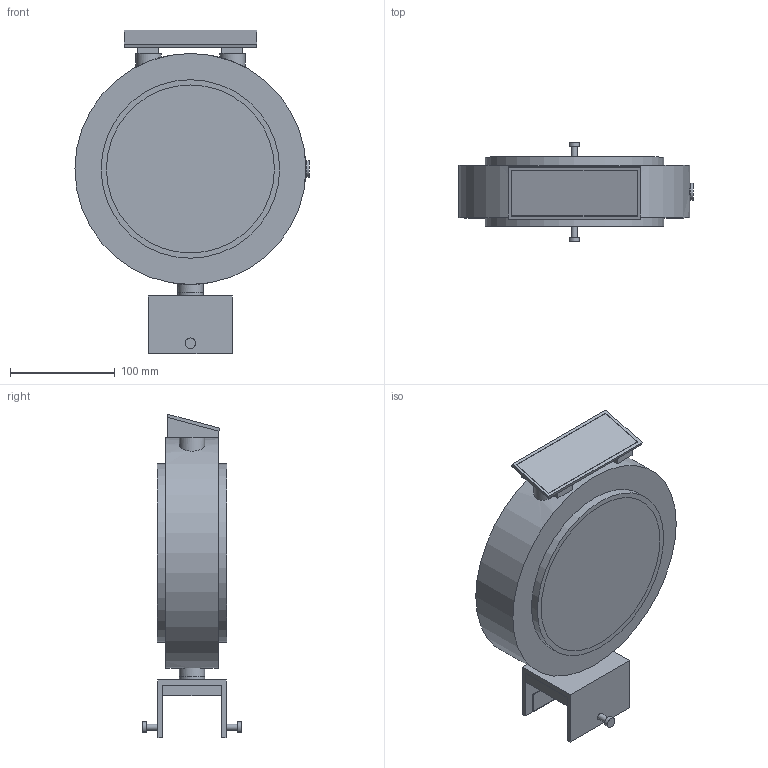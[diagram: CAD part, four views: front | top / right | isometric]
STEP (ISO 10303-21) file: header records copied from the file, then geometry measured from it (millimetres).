
FILE_DESCRIPTION(('FreeCAD Model'),'2;1');
FILE_NAME('Open CASCADE Shape Model','2026-10-04T03:57:48',('FreeCAD'),( 'FreeCAD'),'Open CASCADE STEP processor 7.8','FreeCAD','Unknown');
FILE_SCHEMA(('AUTOMOTIVE_DESIGN { 1 0 10303 214 1 1 1 1 }'));
Length unit declared in the file: millimetre
Products named in the file (1): Open CASCADE STEP translator 7.8 1
Bounding box: 223 x 94.8 x 308.1 mm (x, y, z)
Volume: 541444.9 mm3; surface area: 327954.4 mm2
Topology: 19 solids, 19 shells, 137 faces, 255 edges, 170 vertices
Faces by surface type: plane 104, cylinder 33
Full cylindrical faces by diameter (mm): 6 x2, 6.8 x2, 10 x2, 11.6 x1, 12 x1, 16 x4, 16.8 x2, 17 x1, 24 x7, 34 x1, 160 x4, 170 x4, 214 x1, 220 x1
Entity records: 4007 total; most frequent: CARTESIAN_POINT 1197, DIRECTION 577, ORIENTED_EDGE 510, EDGE_CURVE 255, AXIS2_PLACEMENT_3D 196, LINE 185, VECTOR 185, VERTEX_POINT 170
